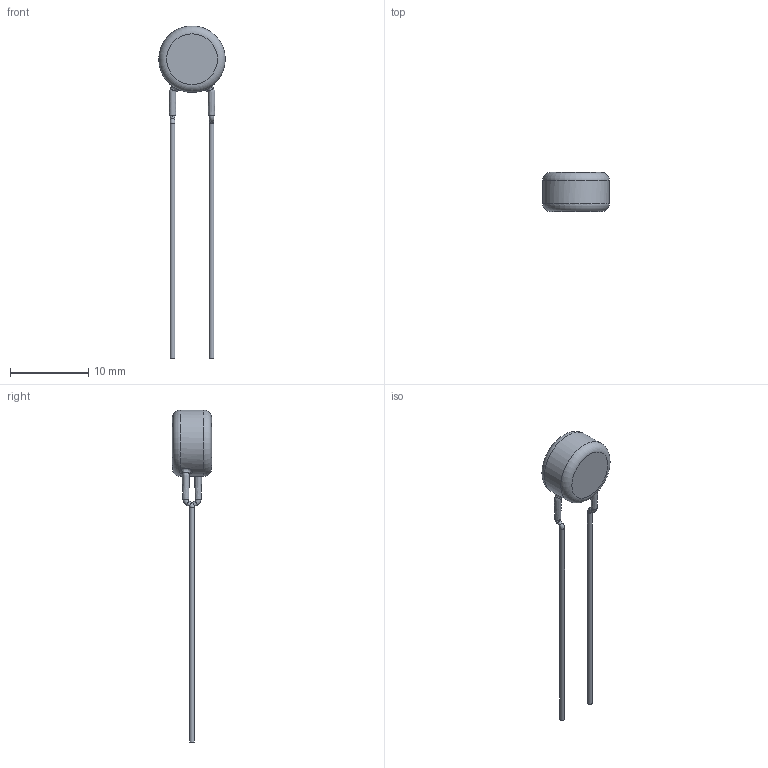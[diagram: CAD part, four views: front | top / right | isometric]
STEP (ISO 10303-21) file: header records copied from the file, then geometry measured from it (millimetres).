
FILE_DESCRIPTION(/* description */ (''),/* implementation_level */ '2;1');
FILE_NAME(/* name */ 'I:\Marketing\M6t1\3D-Models\Zchng-Werk-3\Upload for homepage\BCC\AY2\Inline Dia 0,6 LS 5\AY2152K31Y5US63V5.stp',/* time_stamp */ '2020-11-05T15:59:10+01:00',/* author */ ('truediger'),/* organization */ (''),/* preprocessor_version */ 'ST-DEVELOPER v18',/* originating_system */ 'Autodesk Inventor 2020',/* authorisation */ '');
FILE_SCHEMA (('AUTOMOTIVE_DESIGN { 1 0 10303 214 3 1 1 }'));
Length unit declared in the file: millimetre
Products named in the file (1): Bauteil7
Bounding box: 8.5 x 5 x 42.5 mm (x, y, z)
Volume: 294.9 mm3; surface area: 360 mm2
Topology: 1 solids, 1 shells, 29 faces, 77 edges, 52 vertices
Faces by surface type: cylinder 9, bspline 8, torus 6, plane 6
Full cylindrical faces by diameter (mm): 0.6 x4, 8.5 x1
Entity records: 2408 total; most frequent: CARTESIAN_POINT 1647, ORIENTED_EDGE 154, DIRECTION 141, EDGE_CURVE 77, AXIS2_PLACEMENT_3D 68, VERTEX_POINT 52, CIRCLE 44, EDGE_LOOP 31
